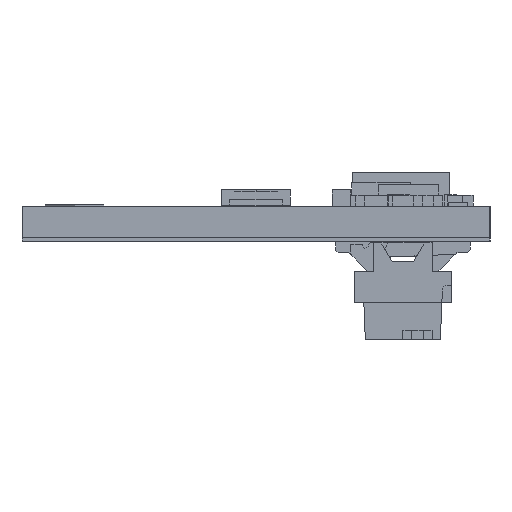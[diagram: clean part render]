
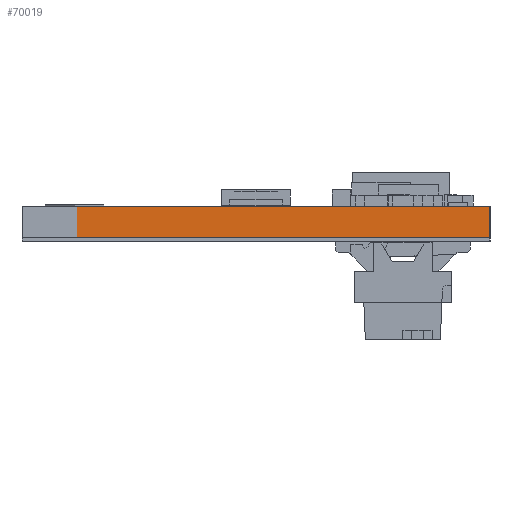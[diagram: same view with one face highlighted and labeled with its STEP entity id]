
A CAD part, left-side view. The second image highlights one B-rep face of the part: STEP entity #70019.
In plain terms, the highlighted planar face has unit normal (-1, 0, 0).
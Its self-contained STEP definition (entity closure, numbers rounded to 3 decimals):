
#6390 = VECTOR ( 'NONE', #66108, 1000. ) ;
#11654 = CARTESIAN_POINT ( 'NONE',  ( 0., 24., 1.6 ) ) ;
#13530 = VECTOR ( 'NONE', #73503, 1000. ) ;
#14459 = CARTESIAN_POINT ( 'NONE',  ( 0., 0., 1.6 ) ) ;
#15811 = EDGE_CURVE ( 'NONE', #41796, #60430, #58639, .T. ) ;
#15982 = EDGE_LOOP ( 'NONE', ( #26003, #67608, #64305, #43443 ) ) ;
#18620 = LINE ( 'NONE', #23904, #6390 ) ;
#19427 = DIRECTION ( 'NONE',  ( 1., 0., 0. ) ) ;
#23904 = CARTESIAN_POINT ( 'NONE',  ( 0., 24., 1.6 ) ) ;
#24630 = VECTOR ( 'NONE', #56639, 1000. ) ;
#24973 = LINE ( 'NONE', #71393, #26879 ) ;
#25188 = CARTESIAN_POINT ( 'NONE',  ( 0., 24., 1.6 ) ) ;
#26003 = ORIENTED_EDGE ( 'NONE', *, *, #70002, .T. ) ;
#26879 = VECTOR ( 'NONE', #77469, 1000. ) ;
#29533 = LINE ( 'NONE', #67190, #13530 ) ;
#33438 = VERTEX_POINT ( 'NONE', #77595 ) ;
#40759 = CARTESIAN_POINT ( 'NONE',  ( 0., 0., 0. ) ) ;
#41796 = VERTEX_POINT ( 'NONE', #61824 ) ;
#43443 = ORIENTED_EDGE ( 'NONE', *, *, #67333, .T. ) ;
#49501 = PLANE ( 'NONE',  #61379 ) ;
#56639 = DIRECTION ( 'NONE',  ( 0., 0., -1. ) ) ;
#58639 = LINE ( 'NONE', #14459, #24630 ) ;
#60430 = VERTEX_POINT ( 'NONE', #40759 ) ;
#61379 = AXIS2_PLACEMENT_3D ( 'NONE', #25188, #19427, #61624 ) ;
#61624 = DIRECTION ( 'NONE',  ( 0., 0., -1. ) ) ;
#61824 = CARTESIAN_POINT ( 'NONE',  ( 0., 0., 1.6 ) ) ;
#64305 = ORIENTED_EDGE ( 'NONE', *, *, #68906, .F. ) ;
#66108 = DIRECTION ( 'NONE',  ( 0., 0., -1. ) ) ;
#67190 = CARTESIAN_POINT ( 'NONE',  ( 0., 24., 0. ) ) ;
#67333 = EDGE_CURVE ( 'NONE', #75249, #33438, #18620, .T. ) ;
#67608 = ORIENTED_EDGE ( 'NONE', *, *, #15811, .F. ) ;
#68906 = EDGE_CURVE ( 'NONE', #75249, #41796, #24973, .T. ) ;
#70002 = EDGE_CURVE ( 'NONE', #33438, #60430, #29533, .T. ) ;
#70019 = ADVANCED_FACE ( 'NONE', ( #77665 ), #49501, .F. ) ;
#71393 = CARTESIAN_POINT ( 'NONE',  ( 0., 24., 1.6 ) ) ;
#73503 = DIRECTION ( 'NONE',  ( 0., -1., 0. ) ) ;
#75249 = VERTEX_POINT ( 'NONE', #11654 ) ;
#77469 = DIRECTION ( 'NONE',  ( 0., -1., 0. ) ) ;
#77595 = CARTESIAN_POINT ( 'NONE',  ( 0., 24., 0. ) ) ;
#77665 = FACE_OUTER_BOUND ( 'NONE', #15982, .T. ) ;
